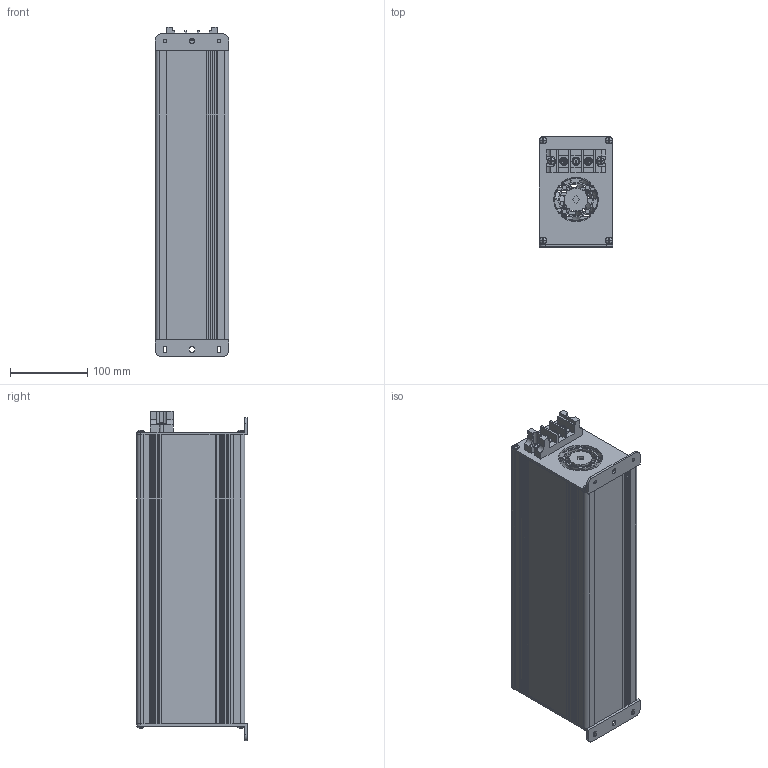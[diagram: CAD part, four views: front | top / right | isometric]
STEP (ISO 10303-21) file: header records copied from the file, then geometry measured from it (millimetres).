
FILE_DESCRIPTION(/* description */ ('','CAx-IF Rec.Pracs.---Representation and Presentation of Product Manufacturing Information (PMI)---4.0---2014-10-13'),/* implementation_level */ '2;1');
FILE_NAME(/* name */ 'H:\04_배터리_전기종\고부하용 배터리 케이스_3D\[NEW] DV 설계자용\DV375.stp',/* time_stamp */ '2022-06-16T12:56:09+09:00',/* author */ ('jjang'),/* organization */ (''),/* preprocessor_version */ 'ST-DEVELOPER v18.1',/* originating_system */ 'Autodesk Inventor 2021',/* authorisation */ '');
FILE_SCHEMA (('AP242_MANAGED_MODEL_BASED_3D_ENGINEERING_MIM_LF { 1 0 10303 442 1 1 4 }'));
Length unit declared in the file: inch
Products named in the file (1): DV375_Shrinkwrap_1
Bounding box: 95.5 x 142.98 x 427.5 mm (x, y, z)
Volume: 684818.9 mm3; surface area: 476677.5 mm2
Topology: 1 solids, 1 shells, 1132 faces, 3211 edges, 2096 vertices
Faces by surface type: plane 623, cylinder 362, bspline 92, torus 43, sphere 7, cone 5
Full cylindrical faces by diameter (mm): 0.9 x2, 3.8 x8, 4.3 x4, 4.4 x2, 4.5 x8, 5 x3, 5.5 x6, 6 x3, 6.5 x1, 8.584 x3, 8.6 x3, 8.8 x8, 9.2 x2, 10 x1, 25.4 x1, 55.4 x1
Entity records: 44703 total; most frequent: CARTESIAN_POINT 14484, ORIENTED_EDGE 6412, DIRECTION 5999, EDGE_CURVE 3206, AXIS2_PLACEMENT_3D 2115, VERTEX_POINT 2096, LINE 1769, VECTOR 1769
